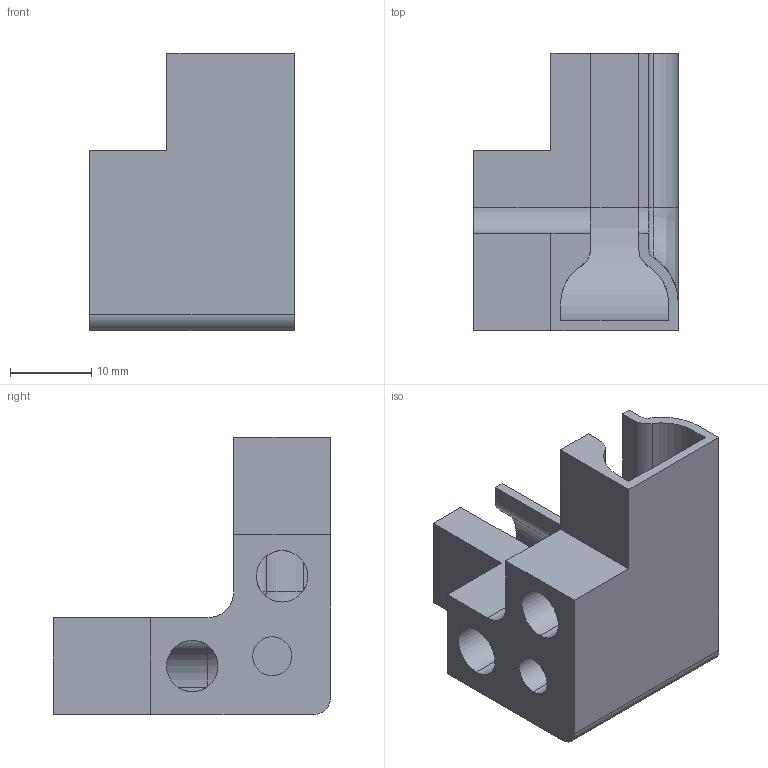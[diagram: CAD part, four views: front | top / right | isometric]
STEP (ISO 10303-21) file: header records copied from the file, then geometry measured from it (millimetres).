
FILE_DESCRIPTION (( 'STEP AP203' ), '1' );
FILE_NAME ('SLIM_EdgeLightBRKTcorner.STEP', '2019-01-07T16:48:06', ( '' ), ( '' ), 'SwSTEP 2.0', 'SolidWorks 2017', '' );
FILE_SCHEMA (( 'CONFIG_CONTROL_DESIGN' ));
Length unit declared in the file: inch
Products named in the file (1): SLIM_EdgeLightBRKTcorner
Bounding box: 25.23 x 34.17 x 34.17 mm (x, y, z)
Volume: 6894.9 mm3; surface area: 6181.8 mm2
Topology: 1 solids, 1 shells, 79 faces, 195 edges, 117 vertices
Faces by surface type: plane 34, cylinder 22, torus 15, bspline 8
Entity records: 2855 total; most frequent: CARTESIAN_POINT 910, DIRECTION 402, ORIENTED_EDGE 390, EDGE_CURVE 195, AXIS2_PLACEMENT_3D 153, VERTEX_POINT 117, LINE 96, VECTOR 96
